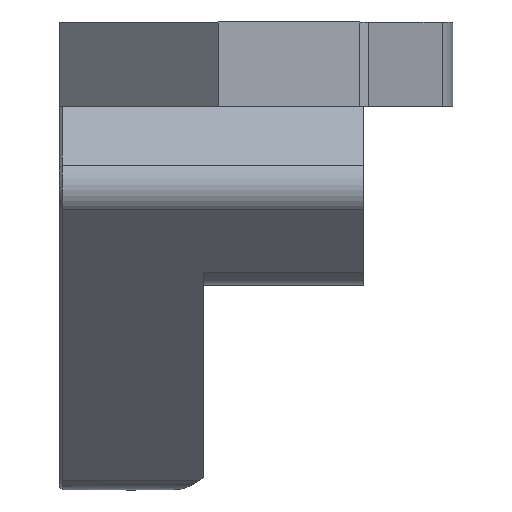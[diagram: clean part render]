
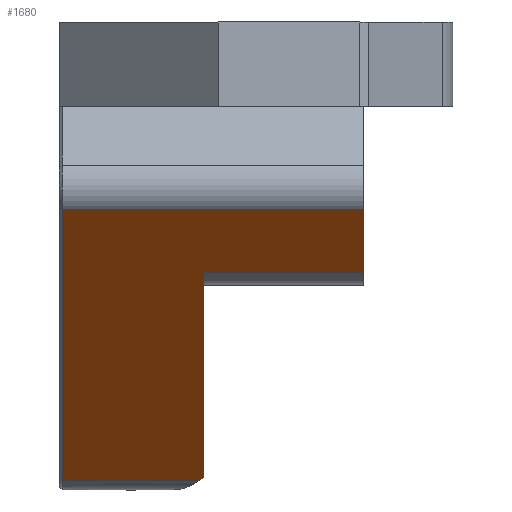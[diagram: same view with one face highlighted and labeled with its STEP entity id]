
A CAD part, left-side view. The second image highlights one B-rep face of the part: STEP entity #1680.
In plain terms, the highlighted planar face has unit normal (-0.707, 0, -0.707).
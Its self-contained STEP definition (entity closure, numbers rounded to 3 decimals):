
#23=ELLIPSE('',#1750,16.546,11.7);
#155=PLANE('',#1793);
#234=LINE('',#3637,#366);
#265=LINE('',#3772,#397);
#271=LINE('',#3786,#403);
#272=LINE('',#3789,#404);
#273=LINE('',#3791,#405);
#274=LINE('',#3792,#406);
#366=VECTOR('',#1989,10.);
#397=VECTOR('',#2086,10.);
#403=VECTOR('',#2102,10.);
#404=VECTOR('',#2107,10.);
#405=VECTOR('',#2108,10.);
#406=VECTOR('',#2109,10.);
#486=FACE_OUTER_BOUND('',#593,.T.);
#593=EDGE_LOOP('',(#1440,#1441,#1442,#1443,#1444,#1445,#1446));
#803=VERTEX_POINT('',#3612);
#804=VERTEX_POINT('',#3614);
#809=VERTEX_POINT('',#3636);
#831=VERTEX_POINT('',#3767);
#832=VERTEX_POINT('',#3771);
#835=VERTEX_POINT('',#3785);
#836=VERTEX_POINT('',#3790);
#997=EDGE_CURVE('',#804,#803,#23,.T.);
#1003=EDGE_CURVE('',#803,#809,#234,.T.);
#1047=EDGE_CURVE('',#831,#832,#265,.T.);
#1054=EDGE_CURVE('',#832,#835,#271,.T.);
#1056=EDGE_CURVE('',#804,#831,#272,.T.);
#1057=EDGE_CURVE('',#836,#809,#273,.T.);
#1058=EDGE_CURVE('',#835,#836,#274,.T.);
#1440=ORIENTED_EDGE('',*,*,#1047,.F.);
#1441=ORIENTED_EDGE('',*,*,#1056,.F.);
#1442=ORIENTED_EDGE('',*,*,#997,.T.);
#1443=ORIENTED_EDGE('',*,*,#1003,.T.);
#1444=ORIENTED_EDGE('',*,*,#1057,.F.);
#1445=ORIENTED_EDGE('',*,*,#1058,.F.);
#1446=ORIENTED_EDGE('',*,*,#1054,.F.);
#1680=ADVANCED_FACE('',(#486),#155,.T.);
#1750=AXIS2_PLACEMENT_3D('',#3615,#1980,#1981);
#1793=AXIS2_PLACEMENT_3D('',#3788,#2105,#2106);
#1980=DIRECTION('center_axis',(0.707,0.,0.707));
#1981=DIRECTION('ref_axis',(0.707,0.,-0.707));
#1989=DIRECTION('',(-0.707,0.,0.707));
#2086=DIRECTION('',(-0.707,0.,0.707));
#2102=DIRECTION('',(0.,-1.,0.));
#2105=DIRECTION('center_axis',(-0.707,0.,
-0.707));
#2106=DIRECTION('ref_axis',(0.707,0.,-0.707));
#2107=DIRECTION('',(0.,1.,0.));
#2108=DIRECTION('',(0.,1.,0.));
#2109=DIRECTION('',(0.707,0.,-0.707));
#3612=CARTESIAN_POINT('',(22.698,42.458,-1.687));
#3614=CARTESIAN_POINT('',(22.898,42.745,-1.887));
#3615=CARTESIAN_POINT('Origin',(32.397,35.913,-11.385));
#3636=CARTESIAN_POINT('',(8.775,42.458,12.237));
#3637=CARTESIAN_POINT('',(6.651,42.458,14.36));
#3767=CARTESIAN_POINT('',(22.898,52.008,-1.887));
#3771=CARTESIAN_POINT('',(4.55,52.008,16.462));
#3772=CARTESIAN_POINT('',(10.867,52.008,10.145));
#3785=CARTESIAN_POINT('',(4.55,31.62,16.462));
#3786=CARTESIAN_POINT('',(4.55,40.858,16.462));
#3788=CARTESIAN_POINT('Origin',(4.55,51.908,16.462));
#3789=CARTESIAN_POINT('',(22.898,50.261,-1.887));
#3790=CARTESIAN_POINT('',(8.775,31.62,12.237));
#3791=CARTESIAN_POINT('',(8.775,46.636,12.237));
#3792=CARTESIAN_POINT('',(10.867,31.62,10.145));
